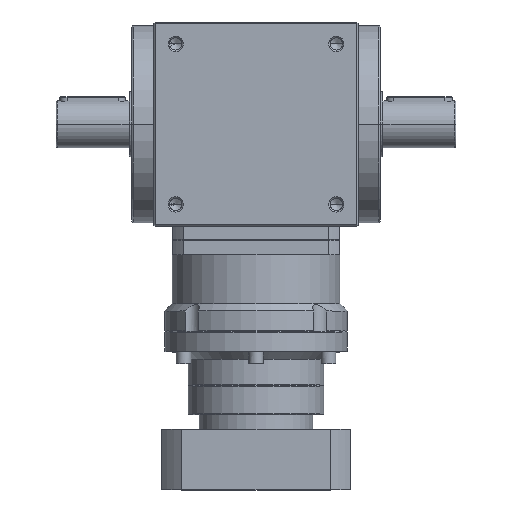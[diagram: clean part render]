
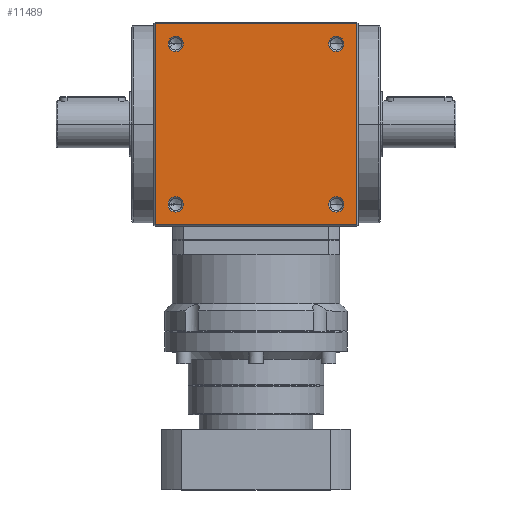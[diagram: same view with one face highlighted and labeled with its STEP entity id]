
A CAD part, top view. The second image highlights one B-rep face of the part: STEP entity #11489.
In plain terms, the highlighted planar face has unit normal (0, 0, 1).
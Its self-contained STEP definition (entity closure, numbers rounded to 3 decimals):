
#55 = AXIS2_PLACEMENT_3D ( 'NONE', #13958, #13035, #5448 ) ;
#580 = EDGE_LOOP ( 'NONE', ( #8180, #5111 ) ) ;
#618 = EDGE_CURVE ( 'NONE', #7153, #2991, #14041, .T. ) ;
#688 = CARTESIAN_POINT ( 'NONE',  ( 55., 55., 70. ) ) ;
#756 = CARTESIAN_POINT ( 'NONE',  ( 0., -69., 70. ) ) ;
#770 = VERTEX_POINT ( 'NONE', #3657 ) ;
#823 = DIRECTION ( 'NONE',  ( 0., 0., 1. ) ) ;
#949 = DIRECTION ( 'NONE',  ( 1., 0., 0. ) ) ;
#1112 = CARTESIAN_POINT ( 'NONE',  ( -55., -55., 70. ) ) ;
#1166 = FACE_BOUND ( 'NONE', #1641, .T. ) ;
#1405 = CARTESIAN_POINT ( 'NONE',  ( 55., -55., 70. ) ) ;
#1456 = CARTESIAN_POINT ( 'NONE',  ( -55., -55., 70. ) ) ;
#1580 = CARTESIAN_POINT ( 'NONE',  ( -69., 0., 70. ) ) ;
#1598 = LINE ( 'NONE', #5928, #12770 ) ;
#1641 = EDGE_LOOP ( 'NONE', ( #12726, #6799 ) ) ;
#1672 = CARTESIAN_POINT ( 'NONE',  ( 69., 69., 70. ) ) ;
#1685 = ORIENTED_EDGE ( 'NONE', *, *, #9564, .F. ) ;
#1693 = CARTESIAN_POINT ( 'NONE',  ( 49.75, 55., 70. ) ) ;
#1732 = ORIENTED_EDGE ( 'NONE', *, *, #3350, .T. ) ;
#1879 = CIRCLE ( 'NONE', #12072, 5.25 ) ;
#1984 = DIRECTION ( 'NONE',  ( 1., 0., 0. ) ) ;
#2118 = LINE ( 'NONE', #2398, #12536 ) ;
#2265 = CARTESIAN_POINT ( 'NONE',  ( -60.25, -55., 70. ) ) ;
#2398 = CARTESIAN_POINT ( 'NONE',  ( 69., 0., 70. ) ) ;
#2449 = ORIENTED_EDGE ( 'NONE', *, *, #4204, .T. ) ;
#2784 = EDGE_CURVE ( 'NONE', #770, #10974, #13425, .T. ) ;
#2930 = EDGE_CURVE ( 'NONE', #12574, #13259, #1879, .T. ) ;
#2991 = VERTEX_POINT ( 'NONE', #4107 ) ;
#3034 = ORIENTED_EDGE ( 'NONE', *, *, #2784, .F. ) ;
#3350 = EDGE_CURVE ( 'NONE', #4561, #7332, #2118, .T. ) ;
#3356 = FACE_BOUND ( 'NONE', #580, .T. ) ;
#3379 = EDGE_CURVE ( 'NONE', #10974, #770, #6895, .T. ) ;
#3550 = AXIS2_PLACEMENT_3D ( 'NONE', #1112, #7444, #11969 ) ;
#3645 = VERTEX_POINT ( 'NONE', #9409 ) ;
#3657 = CARTESIAN_POINT ( 'NONE',  ( -60.25, 55., 70. ) ) ;
#3969 = EDGE_CURVE ( 'NONE', #7332, #3645, #1598, .T. ) ;
#4017 = CARTESIAN_POINT ( 'NONE',  ( 60.25, 55., 70. ) ) ;
#4107 = CARTESIAN_POINT ( 'NONE',  ( 60.25, -55., 70. ) ) ;
#4204 = EDGE_CURVE ( 'NONE', #3645, #12468, #13961, .T. ) ;
#4244 = ORIENTED_EDGE ( 'NONE', *, *, #3969, .T. ) ;
#4337 = EDGE_LOOP ( 'NONE', ( #1732, #4244, #2449, #12387 ) ) ;
#4348 = FACE_OUTER_BOUND ( 'NONE', #4337, .T. ) ;
#4419 = EDGE_CURVE ( 'NONE', #2991, #7153, #7229, .T. ) ;
#4561 = VERTEX_POINT ( 'NONE', #9368 ) ;
#4958 = DIRECTION ( 'NONE',  ( 0., -1., 0. ) ) ;
#5111 = ORIENTED_EDGE ( 'NONE', *, *, #618, .F. ) ;
#5154 = DIRECTION ( 'NONE',  ( 1., 0., 0. ) ) ;
#5389 = CIRCLE ( 'NONE', #3550, 5.25 ) ;
#5448 = DIRECTION ( 'NONE',  ( 1., 0., 0. ) ) ;
#5669 = AXIS2_PLACEMENT_3D ( 'NONE', #6380, #12767, #1984 ) ;
#5725 = VECTOR ( 'NONE', #4958, 1000. ) ;
#5759 = EDGE_LOOP ( 'NONE', ( #13857, #3034 ) ) ;
#5928 = CARTESIAN_POINT ( 'NONE',  ( 0., 69., 70. ) ) ;
#6161 = DIRECTION ( 'NONE',  ( 1., 0., 0. ) ) ;
#6350 = DIRECTION ( 'NONE',  ( 0., 0., 1. ) ) ;
#6380 = CARTESIAN_POINT ( 'NONE',  ( 55., 55., 70. ) ) ;
#6403 = AXIS2_PLACEMENT_3D ( 'NONE', #14009, #6350, #10603 ) ;
#6531 = EDGE_CURVE ( 'NONE', #8269, #7792, #6770, .T. ) ;
#6550 = EDGE_CURVE ( 'NONE', #12468, #4561, #10487, .T. ) ;
#6607 = EDGE_CURVE ( 'NONE', #13259, #12574, #5389, .T. ) ;
#6770 = CIRCLE ( 'NONE', #7441, 5.25 ) ;
#6799 = ORIENTED_EDGE ( 'NONE', *, *, #2930, .F. ) ;
#6888 = DIRECTION ( 'NONE',  ( 0., 0., 1. ) ) ;
#6895 = CIRCLE ( 'NONE', #55, 5.25 ) ;
#7153 = VERTEX_POINT ( 'NONE', #7702 ) ;
#7229 = CIRCLE ( 'NONE', #12682, 5.25 ) ;
#7332 = VERTEX_POINT ( 'NONE', #1672 ) ;
#7441 = AXIS2_PLACEMENT_3D ( 'NONE', #688, #823, #6161 ) ;
#7444 = DIRECTION ( 'NONE',  ( 0., 0., 1. ) ) ;
#7485 = CIRCLE ( 'NONE', #5669, 5.25 ) ;
#7633 = DIRECTION ( 'NONE',  ( 0., 0., 1. ) ) ;
#7702 = CARTESIAN_POINT ( 'NONE',  ( 49.75, -55., 70. ) ) ;
#7792 = VERTEX_POINT ( 'NONE', #4017 ) ;
#7927 = AXIS2_PLACEMENT_3D ( 'NONE', #11024, #8689, #13016 ) ;
#8180 = ORIENTED_EDGE ( 'NONE', *, *, #4419, .F. ) ;
#8269 = VERTEX_POINT ( 'NONE', #1693 ) ;
#8689 = DIRECTION ( 'NONE',  ( 0., 0., -1. ) ) ;
#8832 = PLANE ( 'NONE',  #7927 ) ;
#8834 = DIRECTION ( 'NONE',  ( 0., 0., 1. ) ) ;
#9109 = CARTESIAN_POINT ( 'NONE',  ( -49.75, 55., 70. ) ) ;
#9148 = DIRECTION ( 'NONE',  ( 1., 0., 0. ) ) ;
#9368 = CARTESIAN_POINT ( 'NONE',  ( 69., -69., 70. ) ) ;
#9409 = CARTESIAN_POINT ( 'NONE',  ( -69., 69., 70. ) ) ;
#9564 = EDGE_CURVE ( 'NONE', #7792, #8269, #7485, .T. ) ;
#9684 = FACE_BOUND ( 'NONE', #10502, .T. ) ;
#9737 = AXIS2_PLACEMENT_3D ( 'NONE', #10683, #7633, #949 ) ;
#10463 = ORIENTED_EDGE ( 'NONE', *, *, #6531, .F. ) ;
#10487 = LINE ( 'NONE', #756, #11509 ) ;
#10502 = EDGE_LOOP ( 'NONE', ( #1685, #10463 ) ) ;
#10603 = DIRECTION ( 'NONE',  ( 1., 0., 0. ) ) ;
#10683 = CARTESIAN_POINT ( 'NONE',  ( 55., -55., 70. ) ) ;
#10974 = VERTEX_POINT ( 'NONE', #9109 ) ;
#10997 = CARTESIAN_POINT ( 'NONE',  ( -69., -69., 70. ) ) ;
#11024 = CARTESIAN_POINT ( 'NONE',  ( 0., 0., 70. ) ) ;
#11029 = DIRECTION ( 'NONE',  ( -1., 0., 0. ) ) ;
#11489 = ADVANCED_FACE ( 'NONE', ( #4348, #3356, #1166, #9684, #12023 ), #8832, .F. ) ;
#11509 = VECTOR ( 'NONE', #5154, 1000. ) ;
#11969 = DIRECTION ( 'NONE',  ( 1., 0., 0. ) ) ;
#12023 = FACE_BOUND ( 'NONE', #5759, .T. ) ;
#12050 = DIRECTION ( 'NONE',  ( 0., 1., 0. ) ) ;
#12072 = AXIS2_PLACEMENT_3D ( 'NONE', #1456, #8834, #13155 ) ;
#12387 = ORIENTED_EDGE ( 'NONE', *, *, #6550, .T. ) ;
#12468 = VERTEX_POINT ( 'NONE', #10997 ) ;
#12536 = VECTOR ( 'NONE', #12050, 1000. ) ;
#12574 = VERTEX_POINT ( 'NONE', #2265 ) ;
#12682 = AXIS2_PLACEMENT_3D ( 'NONE', #1405, #6888, #9148 ) ;
#12726 = ORIENTED_EDGE ( 'NONE', *, *, #6607, .F. ) ;
#12767 = DIRECTION ( 'NONE',  ( 0., 0., 1. ) ) ;
#12770 = VECTOR ( 'NONE', #11029, 1000. ) ;
#13016 = DIRECTION ( 'NONE',  ( -1., 0., 0. ) ) ;
#13035 = DIRECTION ( 'NONE',  ( 0., 0., 1. ) ) ;
#13155 = DIRECTION ( 'NONE',  ( 1., 0., 0. ) ) ;
#13259 = VERTEX_POINT ( 'NONE', #13519 ) ;
#13425 = CIRCLE ( 'NONE', #6403, 5.25 ) ;
#13519 = CARTESIAN_POINT ( 'NONE',  ( -49.75, -55., 70. ) ) ;
#13857 = ORIENTED_EDGE ( 'NONE', *, *, #3379, .F. ) ;
#13958 = CARTESIAN_POINT ( 'NONE',  ( -55., 55., 70. ) ) ;
#13961 = LINE ( 'NONE', #1580, #5725 ) ;
#14009 = CARTESIAN_POINT ( 'NONE',  ( -55., 55., 70. ) ) ;
#14041 = CIRCLE ( 'NONE', #9737, 5.25 ) ;
